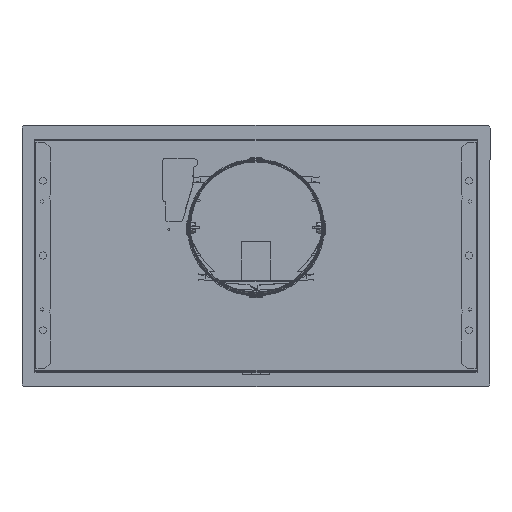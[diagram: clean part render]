
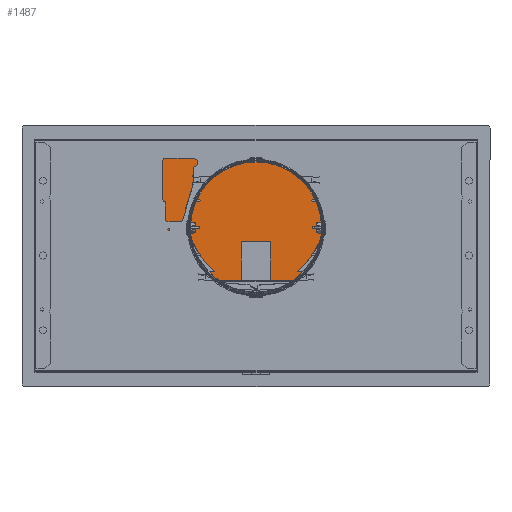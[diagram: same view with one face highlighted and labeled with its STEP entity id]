
A CAD part, top view. The second image highlights one B-rep face of the part: STEP entity #1487.
In plain terms, the highlighted planar face has unit normal (0, 0, 1) as drawn and (0, -1, 0) by its records, which use the part's own axes.
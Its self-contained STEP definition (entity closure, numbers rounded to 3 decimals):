
#1487=ADVANCED_FACE('',(#9334,#7744),#117231,.T.);
#7744=FACE_BOUND('',#16852,.T.);
#9334=FACE_OUTER_BOUND('',#16851,.T.);
#16851=EDGE_LOOP('',(#29637,#29638,#29639,#29640,#29641,#29642,#29643,#29644));
#16852=EDGE_LOOP('',(#29645,#29646,#29647,#29648,#29649,#29650));
#29637=ORIENTED_EDGE('',*,*,#62928,.T.);
#29638=ORIENTED_EDGE('',*,*,#62926,.F.);
#29639=ORIENTED_EDGE('',*,*,#62924,.T.);
#29640=ORIENTED_EDGE('',*,*,#62921,.F.);
#29641=ORIENTED_EDGE('',*,*,#62919,.T.);
#29642=ORIENTED_EDGE('',*,*,#62916,.F.);
#29643=ORIENTED_EDGE('',*,*,#62914,.T.);
#29644=ORIENTED_EDGE('',*,*,#62910,.F.);
#29645=ORIENTED_EDGE('',*,*,#62932,.F.);
#29646=ORIENTED_EDGE('',*,*,#62931,.F.);
#29647=ORIENTED_EDGE('',*,*,#62930,.F.);
#29648=ORIENTED_EDGE('',*,*,#62946,.F.);
#29649=ORIENTED_EDGE('',*,*,#62929,.F.);
#29650=ORIENTED_EDGE('',*,*,#62937,.F.);
#62910=EDGE_CURVE('',#103197,#103196,#89574,.T.);
#62914=EDGE_CURVE('',#103198,#103196,#79345,.T.);
#62916=EDGE_CURVE('',#103198,#103199,#89578,.T.);
#62919=EDGE_CURVE('',#103200,#103199,#79347,.T.);
#62921=EDGE_CURVE('',#103200,#103201,#89581,.T.);
#62924=EDGE_CURVE('',#103202,#103201,#79349,.T.);
#62926=EDGE_CURVE('',#103202,#103203,#89584,.T.);
#62928=EDGE_CURVE('',#103197,#103203,#79351,.T.);
#62929=EDGE_CURVE('',#103204,#103205,#89585,.T.);
#62930=EDGE_CURVE('',#103206,#103207,#89586,.T.);
#62931=EDGE_CURVE('',#103207,#103208,#89587,.T.);
#62932=EDGE_CURVE('',#103208,#103209,#89588,.T.);
#62937=EDGE_CURVE('',#103209,#103204,#79353,.T.);
#62946=EDGE_CURVE('',#103205,#103206,#79355,.T.);
#79345=TRIMMED_CURVE($,#84099,(#177332),(#177333),.T.,.CARTESIAN.);
#79347=TRIMMED_CURVE($,#84101,(#177344),(#177345),.T.,.CARTESIAN.);
#79349=TRIMMED_CURVE($,#84103,(#177356),(#177357),.T.,.CARTESIAN.);
#79351=TRIMMED_CURVE($,#84105,(#177366),(#177367),.T.,.CARTESIAN.);
#79353=TRIMMED_CURVE($,#84107,(#177386),(#177387),.T.,.CARTESIAN.);
#79355=TRIMMED_CURVE($,#84109,(#177406),(#177407),.T.,.CARTESIAN.);
#84099=CIRCLE('',#123769,0.5);
#84101=CIRCLE('',#123771,0.5);
#84103=CIRCLE('',#123773,0.5);
#84105=CIRCLE('',#123775,0.5);
#84107=CIRCLE('',#123777,1.);
#84109=CIRCLE('',#123779,1.);
#89574=B_SPLINE_CURVE_WITH_KNOTS('',1,(#177322,#177323),.UNSPECIFIED.,.F.,
 .F.,(2,2),(-142.,0.),.UNSPECIFIED.);
#89578=B_SPLINE_CURVE_WITH_KNOTS('',1,(#177336,#177337),.UNSPECIFIED.,.F.,
 .F.,(2,2),(-441.,0.),.UNSPECIFIED.);
#89581=B_SPLINE_CURVE_WITH_KNOTS('',1,(#177348,#177349),.UNSPECIFIED.,.F.,
 .F.,(2,2),(-142.,0.),.UNSPECIFIED.);
#89584=B_SPLINE_CURVE_WITH_KNOTS('',1,(#177360,#177361),.UNSPECIFIED.,.F.,
 .F.,(2,2),(-441.,0.),.UNSPECIFIED.);
#89585=B_SPLINE_CURVE_WITH_KNOTS('',1,(#177368,#177369),.UNSPECIFIED.,.F.,
 .F.,(2,2),(0.,31.),.UNSPECIFIED.);
#89586=B_SPLINE_CURVE_WITH_KNOTS('',1,(#177370,#177371),.UNSPECIFIED.,.F.,
 .F.,(2,2),(0.,42.),.UNSPECIFIED.);
#89587=B_SPLINE_CURVE_WITH_KNOTS('',1,(#177372,#177373),.UNSPECIFIED.,.F.,
 .F.,(2,2),(0.,33.),.UNSPECIFIED.);
#89588=B_SPLINE_CURVE_WITH_KNOTS('',1,(#177374,#177375),.UNSPECIFIED.,.F.,
 .F.,(2,2),(0.,42.),.UNSPECIFIED.);
#103196=VERTEX_POINT('',#175683);
#103197=VERTEX_POINT('',#175684);
#103198=VERTEX_POINT('',#175685);
#103199=VERTEX_POINT('',#175686);
#103200=VERTEX_POINT('',#175687);
#103201=VERTEX_POINT('',#175688);
#103202=VERTEX_POINT('',#175689);
#103203=VERTEX_POINT('',#175690);
#103204=VERTEX_POINT('',#175691);
#103205=VERTEX_POINT('',#175692);
#103206=VERTEX_POINT('',#175693);
#103207=VERTEX_POINT('',#175694);
#103208=VERTEX_POINT('',#175695);
#103209=VERTEX_POINT('',#175696);
#117231=PLANE('',#123539);
#123539=AXIS2_PLACEMENT_3D('',#175214,#135021,$);
#123769=AXIS2_PLACEMENT_3D($,#177331,#135473,#135474);
#123771=AXIS2_PLACEMENT_3D($,#177343,#135477,#135478);
#123773=AXIS2_PLACEMENT_3D($,#177355,#135481,#135482);
#123775=AXIS2_PLACEMENT_3D($,#177365,#135485,#135486);
#123777=AXIS2_PLACEMENT_3D($,#177385,#135489,#135490);
#123779=AXIS2_PLACEMENT_3D($,#177405,#135493,#135494);
#135021=DIRECTION('',(0.,-1.,0.));
#135473=DIRECTION('',(0.,-1.,0.));
#135474=DIRECTION('',(-1.,0.,0.));
#135477=DIRECTION('',(0.,-1.,0.));
#135478=DIRECTION('',(0.,0.,1.));
#135481=DIRECTION('',(0.,-1.,0.));
#135482=DIRECTION('',(1.,0.,0.));
#135485=DIRECTION('',(0.,-1.,0.));
#135486=DIRECTION('',(0.,0.,-1.));
#135489=DIRECTION('',(0.,-1.,0.));
#135490=DIRECTION('',(0.,0.,-1.));
#135493=DIRECTION('',(0.,-1.,0.));
#135494=DIRECTION('',(1.,0.,0.));
#175214=CARTESIAN_POINT('',(-86.385,-2.,265.785));
#175683=CARTESIAN_POINT('',(-71.,-2.,-221.));
#175684=CARTESIAN_POINT('',(71.,-2.,-221.));
#175685=CARTESIAN_POINT('',(-71.5,-2.,-220.5));
#175686=CARTESIAN_POINT('',(-71.5,-2.,220.5));
#175687=CARTESIAN_POINT('',(-71.,-2.,221.));
#175688=CARTESIAN_POINT('',(71.,-2.,221.));
#175689=CARTESIAN_POINT('',(71.5,-2.,220.5));
#175690=CARTESIAN_POINT('',(71.5,-2.,-220.5));
#175691=CARTESIAN_POINT('',(-27.2,-2.,-15.5));
#175692=CARTESIAN_POINT('',(-27.2,-2.,15.5));
#175693=CARTESIAN_POINT('',(-28.2,-2.,16.5));
#175694=CARTESIAN_POINT('',(-70.2,-2.,16.5));
#175695=CARTESIAN_POINT('',(-70.2,-2.,-16.5));
#175696=CARTESIAN_POINT('',(-28.2,-2.,-16.5));
#177322=CARTESIAN_POINT('',(71.,-2.,-221.));
#177323=CARTESIAN_POINT('',(-71.,-2.,-221.));
#177331=CARTESIAN_POINT('',(-71.,-2.,-220.5));
#177332=CARTESIAN_POINT('',(-71.5,-2.,-220.5));
#177333=CARTESIAN_POINT('',(-71.,-2.,-221.));
#177336=CARTESIAN_POINT('',(-71.5,-2.,-220.5));
#177337=CARTESIAN_POINT('',(-71.5,-2.,220.5));
#177343=CARTESIAN_POINT('',(-71.,-2.,220.5));
#177344=CARTESIAN_POINT('',(-71.,-2.,221.));
#177345=CARTESIAN_POINT('',(-71.5,-2.,220.5));
#177348=CARTESIAN_POINT('',(-71.,-2.,221.));
#177349=CARTESIAN_POINT('',(71.,-2.,221.));
#177355=CARTESIAN_POINT('',(71.,-2.,220.5));
#177356=CARTESIAN_POINT('',(71.5,-2.,220.5));
#177357=CARTESIAN_POINT('',(71.,-2.,221.));
#177360=CARTESIAN_POINT('',(71.5,-2.,220.5));
#177361=CARTESIAN_POINT('',(71.5,-2.,-220.5));
#177365=CARTESIAN_POINT('',(71.,-2.,-220.5));
#177366=CARTESIAN_POINT('',(71.,-2.,-221.));
#177367=CARTESIAN_POINT('',(71.5,-2.,-220.5));
#177368=CARTESIAN_POINT('',(-27.2,-2.,-15.5));
#177369=CARTESIAN_POINT('',(-27.2,-2.,15.5));
#177370=CARTESIAN_POINT('',(-28.2,-2.,16.5));
#177371=CARTESIAN_POINT('',(-70.2,-2.,16.5));
#177372=CARTESIAN_POINT('',(-70.2,-2.,16.5));
#177373=CARTESIAN_POINT('',(-70.2,-2.,-16.5));
#177374=CARTESIAN_POINT('',(-70.2,-2.,-16.5));
#177375=CARTESIAN_POINT('',(-28.2,-2.,-16.5));
#177385=CARTESIAN_POINT('',(-28.2,-2.,-15.5));
#177386=CARTESIAN_POINT('',(-28.2,-2.,-16.5));
#177387=CARTESIAN_POINT('',(-27.2,-2.,-15.5));
#177405=CARTESIAN_POINT('',(-28.2,-2.,15.5));
#177406=CARTESIAN_POINT('',(-27.2,-2.,15.5));
#177407=CARTESIAN_POINT('',(-28.2,-2.,16.5));
